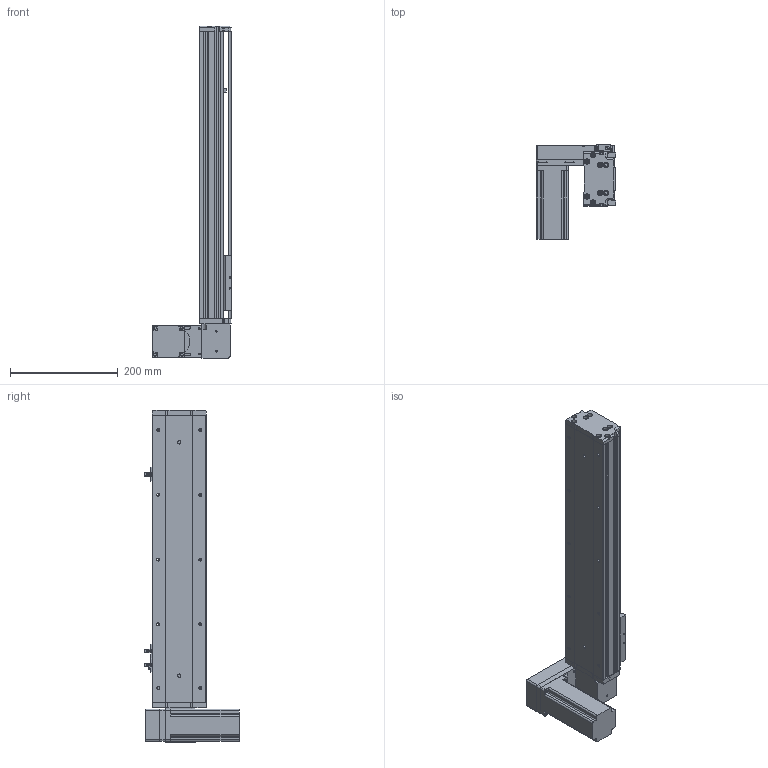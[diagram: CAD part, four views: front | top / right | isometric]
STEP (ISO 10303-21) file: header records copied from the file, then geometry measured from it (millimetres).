
FILE_DESCRIPTION (( 'STEP AP214' ), '1' );
FILE_NAME ('KSD100B-S350-MLD-CM.STEP', '2019-11-09T08:49:15', ( '微软用户' ), ( '微软中国' ), 'SwSTEP 2.0', 'SolidWorks 2014', '' );
FILE_SCHEMA (( 'AUTOMOTIVE_DESIGN' ));
Length unit declared in the file: millimetre
Products named in the file (12): 100遵傷啣肮祭湍; 100宽底板半封闭同步带350行程; KSD100B-S350-MLD-CM; 悵誘欶奻狟殏; 100宽马达安装板连板上下折丝杆同步带; 台达ECMA－C20604AS伺服电机; U倰嫖萇EEㄜSX672; 覜茼え100遵圉猾敕; 100宽防尘板350行程-同步带; 100宽马达安装板同步带左; 100宽同步带安装板半封闭; 100宽马达安装板同步带
Assembly tree (13 placements, depth 2):
  KSD100B-S350-MLD-CM
    100宽底板半封闭同步带350行程
    100遵傷啣肮祭湍
    100宽马达安装板同步带
    100宽同步带安装板半封闭
    100宽马达安装板同步带左
    100宽防尘板350行程-同步带
    覜茼え100遵圉猾敕
    U倰嫖萇EEㄜSX672  x3
    台达ECMA－C20604AS伺服电机
    100宽马达安装板连板上下折丝杆同步带
    悵誘欶奻狟殏
Bounding box: 148 x 174.7 x 615 mm (x, y, z)
Volume: 1753571.7 mm3; surface area: 544857 mm2
Topology: 14 solids, 14 shells, 1291 faces, 3602 edges, 2317 vertices
Faces by surface type: cylinder 625, plane 571, cone 95
Entity records: 44319 total; most frequent: CARTESIAN_POINT 7976, DIRECTION 6198, ORIENTED_EDGE 5920, EDGE_CURVE 2960, AXIS2_PLACEMENT_3D 2245, VERTEX_POINT 1941, LINE 1708, VECTOR 1708
